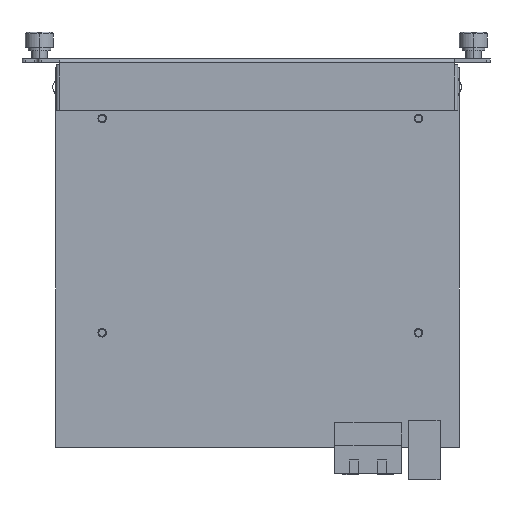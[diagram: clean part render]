
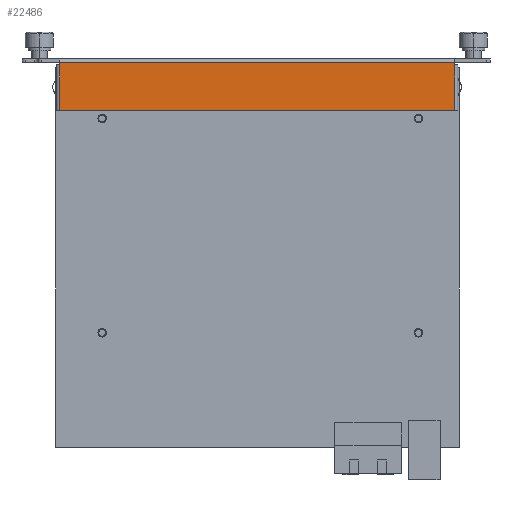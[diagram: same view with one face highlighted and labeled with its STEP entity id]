
A CAD part, left-side view. The second image highlights one B-rep face of the part: STEP entity #22486.
In plain terms, the highlighted planar face has unit normal (-1, 0, 0).
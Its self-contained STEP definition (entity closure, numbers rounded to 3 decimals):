
#693=DIRECTION('',(0.,-1.,0.));
#694=VECTOR('',#693,147.5);
#695=CARTESIAN_POINT('',(-1.6,164.95,-1.2));
#696=LINE('',#695,#694);
#6980=DIRECTION('',(0.,0.,1.));
#6981=VECTOR('',#6980,1.);
#6982=CARTESIAN_POINT('',(-1.6,17.45,-2.2));
#6983=LINE('',#6982,#6981);
#6984=DIRECTION('',(0.,-1.,0.));
#6985=VECTOR('',#6984,147.5);
#6986=CARTESIAN_POINT('',(-1.6,164.95,-19.2));
#6987=LINE('',#6986,#6985);
#6988=DIRECTION('',(0.,0.,-1.));
#6989=VECTOR('',#6988,1.);
#6990=CARTESIAN_POINT('',(-1.6,164.95,-1.2));
#6991=LINE('',#6990,#6989);
#6996=DIRECTION('',(0.,0.,-1.));
#6997=VECTOR('',#6996,17.);
#6998=CARTESIAN_POINT('',(-1.6,17.45,-2.2));
#6999=LINE('',#6998,#6997);
#7913=DIRECTION('',(0.,0.,1.));
#7914=VECTOR('',#7913,17.);
#7915=CARTESIAN_POINT('',(-1.6,164.95,-19.2));
#7916=LINE('',#7915,#7914);
#9511=CARTESIAN_POINT('',(-1.6,164.95,-1.2));
#9512=VERTEX_POINT('',#9511);
#9607=CARTESIAN_POINT('',(-1.6,17.45,-1.2));
#9608=VERTEX_POINT('',#9607);
#9717=CARTESIAN_POINT('',(-1.6,164.95,-2.2));
#9718=VERTEX_POINT('',#9717);
#9719=CARTESIAN_POINT('',(-1.6,17.45,-2.2));
#9720=VERTEX_POINT('',#9719);
#9743=CARTESIAN_POINT('',(-1.6,164.95,-19.2));
#9744=VERTEX_POINT('',#9743);
#9745=CARTESIAN_POINT('',(-1.6,17.45,-19.2));
#9746=VERTEX_POINT('',#9745);
#22470=CARTESIAN_POINT('',(-1.6,5.45,-1.2));
#22471=DIRECTION('',(1.,0.,0.));
#22472=DIRECTION('',(0.,-1.,0.));
#22473=AXIS2_PLACEMENT_3D('',#22470,#22471,#22472);
#22474=PLANE('',#22473);
#22475=ORIENTED_EDGE('',*,*,#12475,.F.);
#22477=ORIENTED_EDGE('',*,*,#22476,.T.);
#22478=ORIENTED_EDGE('',*,*,#12433,.F.);
#22480=ORIENTED_EDGE('',*,*,#22479,.T.);
#22482=ORIENTED_EDGE('',*,*,#22481,.F.);
#22483=ORIENTED_EDGE('',*,*,#12893,.T.);
#22484=EDGE_LOOP('',(#22475,#22477,#22478,#22480,#22482,#22483));
#22485=FACE_OUTER_BOUND('',#22484,.F.);
#22486=ADVANCED_FACE('',(#22485),#22474,.F.);
#12433=EDGE_CURVE('',#9744,#9746,#6987,.T.);
#12475=EDGE_CURVE('',#9720,#9608,#6983,.T.);
#12893=EDGE_CURVE('',#9512,#9608,#696,.T.);
#22476=EDGE_CURVE('',#9720,#9746,#6999,.T.);
#22479=EDGE_CURVE('',#9744,#9718,#7916,.T.);
#22481=EDGE_CURVE('',#9512,#9718,#6991,.T.);
